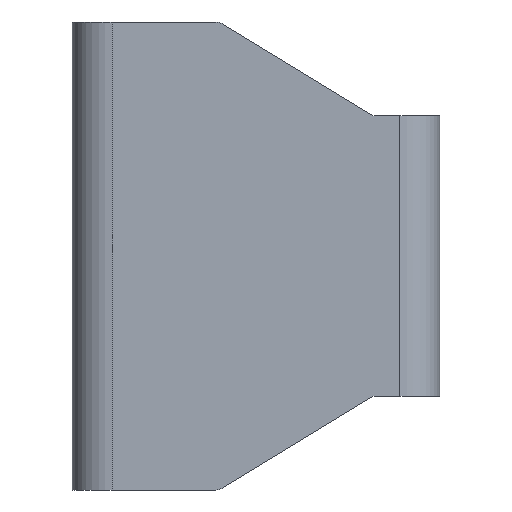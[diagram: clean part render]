
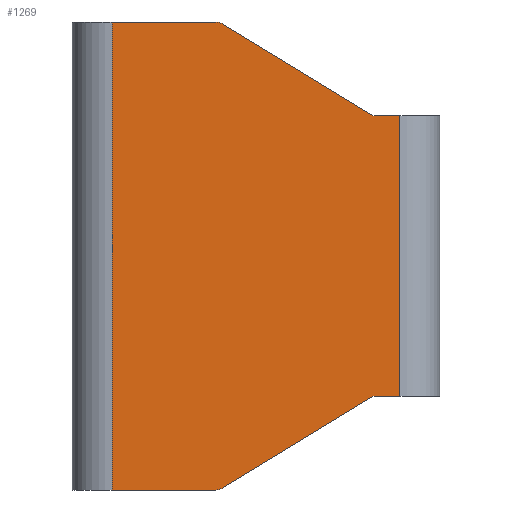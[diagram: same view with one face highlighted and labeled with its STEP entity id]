
A CAD part, left-side view. The second image highlights one B-rep face of the part: STEP entity #1269.
In plain terms, the highlighted planar face has unit normal (-1, 0, 0).
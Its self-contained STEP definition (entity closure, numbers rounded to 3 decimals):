
#49=DIRECTION('',(0.,-1.,0.));
#50=VECTOR('',#49,15.439);
#51=CARTESIAN_POINT('',(-69.,-3.,-35.));
#52=LINE('',#51,#50);
#53=CARTESIAN_POINT('',(-69.,-18.439,-33.));
#54=DIRECTION('',(-1.,0.,0.));
#55=DIRECTION('',(0.,0.,-1.));
#56=AXIS2_PLACEMENT_3D('',#53,#54,#55);
#58=DIRECTION('',(0.,0.,1.));
#59=VECTOR('',#58,70.);
#60=CARTESIAN_POINT('',(-69.,-3.,-35.));
#61=LINE('',#60,#59);
#62=CARTESIAN_POINT('',(-69.,-18.439,33.));
#63=DIRECTION('',(-1.,0.,0.));
#64=DIRECTION('',(0.,-0.52,0.854));
#65=AXIS2_PLACEMENT_3D('',#62,#63,#64);
#67=DIRECTION('',(0.,0.854,0.52));
#68=VECTOR('',#67,26.365);
#69=CARTESIAN_POINT('',(-69.,-42.,21.));
#70=LINE('',#69,#68);
#71=DIRECTION('',(0.,1.,0.));
#72=VECTOR('',#71,4.);
#73=CARTESIAN_POINT('',(-69.,-46.,21.));
#74=LINE('',#73,#72);
#75=DIRECTION('',(0.,1.,0.));
#76=VECTOR('',#75,4.);
#77=CARTESIAN_POINT('',(-69.,-46.,-21.));
#78=LINE('',#77,#76);
#79=DIRECTION('',(0.,-0.854,0.52));
#80=VECTOR('',#79,26.365);
#81=CARTESIAN_POINT('',(-69.,-19.479,-34.708));
#82=LINE('',#81,#80);
#514=DIRECTION('',(0.,0.,1.));
#515=VECTOR('',#514,42.);
#516=CARTESIAN_POINT('',(-69.,-46.,-21.));
#517=LINE('',#516,#515);
#633=DIRECTION('',(0.,-1.,0.));
#634=VECTOR('',#633,15.439);
#635=CARTESIAN_POINT('',(-69.,-3.,35.));
#636=LINE('',#635,#634);
#935=CARTESIAN_POINT('',(-69.,-3.,-35.));
#936=VERTEX_POINT('',#935);
#943=CARTESIAN_POINT('',(-69.,-3.,35.));
#944=VERTEX_POINT('',#943);
#989=CARTESIAN_POINT('',(-69.,-46.,-21.));
#990=CARTESIAN_POINT('',(-69.,-42.,-21.));
#991=VERTEX_POINT('',#989);
#992=VERTEX_POINT('',#990);
#1001=CARTESIAN_POINT('',(-69.,-46.,21.));
#1002=VERTEX_POINT('',#1001);
#1031=CARTESIAN_POINT('',(-69.,-42.,21.));
#1032=VERTEX_POINT('',#1031);
#1165=CARTESIAN_POINT('',(-69.,-18.439,-35.));
#1166=CARTESIAN_POINT('',(-69.,-19.479,-34.708));
#1167=VERTEX_POINT('',#1165);
#1168=VERTEX_POINT('',#1166);
#1193=CARTESIAN_POINT('',(-69.,-19.479,34.708));
#1194=VERTEX_POINT('',#1193);
#1195=CARTESIAN_POINT('',(-69.,-18.439,35.));
#1196=VERTEX_POINT('',#1195);
#1244=CARTESIAN_POINT('',(-69.,-3.,-35.));
#1245=DIRECTION('',(-1.,0.,0.));
#1246=DIRECTION('',(0.,-1.,0.));
#1247=AXIS2_PLACEMENT_3D('',#1244,#1245,#1246);
#1248=PLANE('',#1247);
#1249=ORIENTED_EDGE('',*,*,#1234,.F.);
#1250=ORIENTED_EDGE('',*,*,#1224,.F.);
#1252=ORIENTED_EDGE('',*,*,#1251,.T.);
#1254=ORIENTED_EDGE('',*,*,#1253,.T.);
#1256=ORIENTED_EDGE('',*,*,#1255,.F.);
#1258=ORIENTED_EDGE('',*,*,#1257,.F.);
#1260=ORIENTED_EDGE('',*,*,#1259,.F.);
#1262=ORIENTED_EDGE('',*,*,#1261,.F.);
#1264=ORIENTED_EDGE('',*,*,#1263,.T.);
#1266=ORIENTED_EDGE('',*,*,#1265,.F.);
#1267=EDGE_LOOP('',(#1249,#1250,#1252,#1254,#1256,#1258,#1260,#1262,#1264,
#1266));
#1268=FACE_OUTER_BOUND('',#1267,.F.);
#1269=ADVANCED_FACE('',(#1268),#1248,.T.);
#57=CIRCLE('',#56,2.);
#66=CIRCLE('',#65,2.);
#1224=EDGE_CURVE('',#936,#1167,#52,.T.);
#1234=EDGE_CURVE('',#1167,#1168,#57,.T.);
#1251=EDGE_CURVE('',#936,#944,#61,.T.);
#1253=EDGE_CURVE('',#944,#1196,#636,.T.);
#1255=EDGE_CURVE('',#1194,#1196,#66,.T.);
#1257=EDGE_CURVE('',#1032,#1194,#70,.T.);
#1259=EDGE_CURVE('',#1002,#1032,#74,.T.);
#1261=EDGE_CURVE('',#991,#1002,#517,.T.);
#1263=EDGE_CURVE('',#991,#992,#78,.T.);
#1265=EDGE_CURVE('',#1168,#992,#82,.T.);
